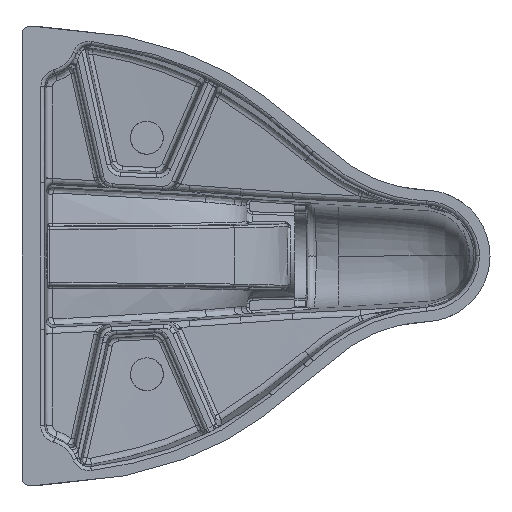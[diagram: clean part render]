
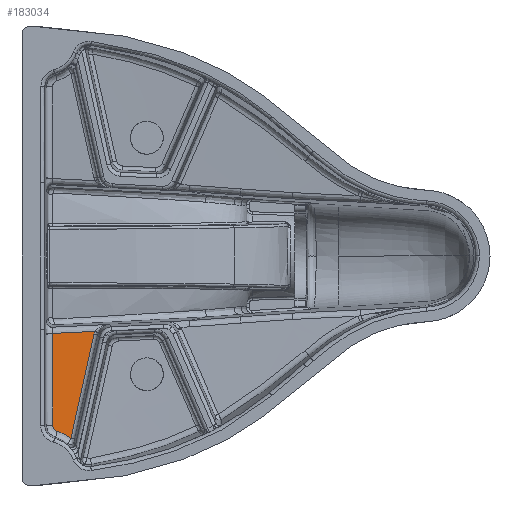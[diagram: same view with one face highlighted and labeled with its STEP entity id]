
A CAD part, left-side view. The second image highlights one B-rep face of the part: STEP entity #183034.
In plain terms, the highlighted free-form (B-spline) face has degree [3, 3] with [4, 4] control points.
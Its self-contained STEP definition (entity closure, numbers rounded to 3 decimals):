
#251 = B_SPLINE_CURVE_WITH_KNOTS ( 'NONE', 3,
 ( #16795, #131809, #65729, #110964 ),
 .UNSPECIFIED., .F., .F.,
 ( 4, 4 ),
 ( 0., 1. ),
 .UNSPECIFIED. ) ;
#8101 = VERTEX_POINT ( 'NONE', #109802 ) ;
#9115 = CARTESIAN_POINT ( 'NONE',  ( -241.536, 136.619, -139.788 ) ) ;
#9513 = CARTESIAN_POINT ( 'NONE',  ( -240.978, 147.461, -128.692 ) ) ;
#9956 = CARTESIAN_POINT ( 'NONE',  ( -239.193, 121.817, -85.988 ) ) ;
#11139 = CARTESIAN_POINT ( 'NONE',  ( -241.514, 133.475, -138.755 ) ) ;
#11355 = CARTESIAN_POINT ( 'NONE',  ( -241.003, 147.461, -129.234 ) ) ;
#13202 = CARTESIAN_POINT ( 'NONE',  ( -241.215, 143.845, -133.496 ) ) ;
#16795 = CARTESIAN_POINT ( 'NONE',  ( -237.807, 147.461, -58.917 ) ) ;
#20552 = CARTESIAN_POINT ( 'NONE',  ( -239.383, 147.461, -93.595 ) ) ;
#21634 = EDGE_CURVE ( 'NONE', #104469, #91697, #135514, .T. ) ;
#23520 = VECTOR ( 'NONE', #107267, 1000. ) ;
#24574 = CARTESIAN_POINT ( 'NONE',  ( -241.145, 146.021, -132.206 ) ) ;
#25104 = CARTESIAN_POINT ( 'NONE',  ( -240.285, 125.815, -110.756 ) ) ;
#25484 = CARTESIAN_POINT ( 'NONE',  ( -241.159, 145.731, -132.484 ) ) ;
#25635 = VERTEX_POINT ( 'NONE', #27637 ) ;
#26401 = CARTESIAN_POINT ( 'NONE',  ( -241.192, 144.842, -133.091 ) ) ;
#27637 = CARTESIAN_POINT ( 'NONE',  ( -238.041, 115.988, -59.605 ) ) ;
#28324 = CARTESIAN_POINT ( 'NONE',  ( -240.978, 147.461, -128.692 ) ) ;
#35483 = CARTESIAN_POINT ( 'NONE',  ( -241.536, 115.087, -136.319 ) ) ;
#35635 = LINE ( 'NONE', #20552, #23520 ) ;
#36442 = CARTESIAN_POINT ( 'NONE',  ( -240.286, 147.461, -113.449 ) ) ;
#37775 = CARTESIAN_POINT ( 'NONE',  ( -241.075, 147.013, -130.779 ) ) ;
#38705 = CARTESIAN_POINT ( 'NONE',  ( -241.168, 145.524, -132.653 ) ) ;
#40922 = CARTESIAN_POINT ( 'NONE',  ( -237.976, 115.583, -58.096 ) ) ;
#42782 = CARTESIAN_POINT ( 'NONE',  ( -238.041, 115.988, -59.605 ) ) ;
#42836 = VERTEX_POINT ( 'NONE', #54268 ) ;
#46957 = ORIENTED_EDGE ( 'NONE', *, *, #21634, .F. ) ;
#52464 = CARTESIAN_POINT ( 'NONE',  ( -239.035, 115.087, -81.297 ) ) ;
#52632 = CARTESIAN_POINT ( 'NONE',  ( -241.355, 137.961, -135.861 ) ) ;
#54268 = CARTESIAN_POINT ( 'NONE',  ( -241.514, 133.475, -138.755 ) ) ;
#56551 = CARTESIAN_POINT ( 'NONE',  ( -241.21, 144.106, -133.421 ) ) ;
#65729 = CARTESIAN_POINT ( 'NONE',  ( -237.881, 126.006, -57.889 ) ) ;
#65759 = CARTESIAN_POINT ( 'NONE',  ( -237.807, 147.461, -58.917 ) ) ;
#66756 = CARTESIAN_POINT ( 'NONE',  ( -241.25, 141.96, -134.038 ) ) ;
#67422 = CARTESIAN_POINT ( 'NONE',  ( -241.514, 133.475, -138.755 ) ) ;
#68200 = EDGE_LOOP ( 'NONE', ( #108142, #128570, #164722, #46957, #173393, #182236 ) ) ;
#69547 = CARTESIAN_POINT ( 'NONE',  ( -241.395, 136.679, -136.577 ) ) ;
#80791 = B_SPLINE_CURVE_WITH_KNOTS ( 'NONE', 3,
 ( #137217, #9956, #166457, #67422 ),
 .UNSPECIFIED., .F., .F.,
 ( 4, 4 ),
 ( 0., 1. ),
 .UNSPECIFIED. ) ;
#82062 = CARTESIAN_POINT ( 'NONE',  ( -241.027, 147.376, -129.761 ) ) ;
#82701 = CARTESIAN_POINT ( 'NONE',  ( -241.215, 143.845, -133.496 ) ) ;
#83902 = CARTESIAN_POINT ( 'NONE',  ( -241.184, 145.076, -132.956 ) ) ;
#91697 = VERTEX_POINT ( 'NONE', #28324 ) ;
#93929 = CARTESIAN_POINT ( 'NONE',  ( -241.536, 125.815, -138.267 ) ) ;
#95260 = CARTESIAN_POINT ( 'NONE',  ( -241.064, 147.119, -130.531 ) ) ;
#95804 = FACE_OUTER_BOUND ( 'NONE', #68200, .T. ) ;
#95977 = CARTESIAN_POINT ( 'NONE',  ( -241.482, 134.239, -138.163 ) ) ;
#96738 = CARTESIAN_POINT ( 'NONE',  ( -239.035, 136.619, -84.766 ) ) ;
#98036 = CARTESIAN_POINT ( 'NONE',  ( -241.13, 146.292, -131.908 ) ) ;
#103981 = VERTEX_POINT ( 'NONE', #65759 ) ;
#104469 = VERTEX_POINT ( 'NONE', #82701 ) ;
#107267 = DIRECTION ( 'NONE',  ( -0.045, 0., -0.999 ) ) ;
#108142 = ORIENTED_EDGE ( 'NONE', *, *, #122277, .F. ) ;
#109802 = CARTESIAN_POINT ( 'NONE',  ( -237.946, 115.279, -57.374 ) ) ;
#110887 = CARTESIAN_POINT ( 'NONE',  ( -237.784, 115.087, -53.786 ) ) ;
#110964 = CARTESIAN_POINT ( 'NONE',  ( -237.946, 115.279, -57.374 ) ) ;
#111270 = CARTESIAN_POINT ( 'NONE',  ( -241.195, 144.722, -133.153 ) ) ;
#112536 = B_SPLINE_CURVE_WITH_KNOTS ( 'NONE', 3,
 ( #11139, #95977, #140282, #69547, #125196, #52632, #182740, #66756, #169530 ),
 .UNSPECIFIED., .F., .F.,
 ( 4, 1, 2, 2, 4 ),
 ( 0., 0.25, 0.375, 0.5, 1. ),
 .UNSPECIFIED. ) ;
#113500 = CARTESIAN_POINT ( 'NONE',  ( -237.946, 115.279, -57.374 ) ) ;
#122277 = EDGE_CURVE ( 'NONE', #8101, #25635, #141962, .T. ) ;
#124494 = CARTESIAN_POINT ( 'NONE',  ( -241.14, 146.114, -132.11 ) ) ;
#125196 = CARTESIAN_POINT ( 'NONE',  ( -241.368, 137.528, -136.094 ) ) ;
#125973 = CARTESIAN_POINT ( 'NONE',  ( -241.536, 147.461, -140.96 ) ) ;
#127203 = B_SPLINE_SURFACE_WITH_KNOTS ( 'NONE', 3, 3, ( 
 ( #168429, #164661, #181645, #110887 ),
 ( #182575, #96738, #153344, #52464 ),
 ( #36442, #154265, #25104, #151460 ),
 ( #125973, #9115, #93929, #35483 ) ),
 .UNSPECIFIED., .F., .F., .F.,
 ( 4, 4 ),
 ( 4, 4 ),
 ( 0., 0.75 ),
 ( 0.024, 0.125 ),
 .UNSPECIFIED. ) ;
#128570 = ORIENTED_EDGE ( 'NONE', *, *, #158711, .F. ) ;
#131074 = EDGE_CURVE ( 'NONE', #42836, #104469, #112536, .T. ) ;
#131809 = CARTESIAN_POINT ( 'NONE',  ( -237.836, 136.733, -58.403 ) ) ;
#135037 = EDGE_CURVE ( 'NONE', #25635, #42836, #80791, .T. ) ;
#135514 = B_SPLINE_CURVE_WITH_KNOTS ( 'NONE', 3,
 ( #13202, #56551, #153734, #111270, #26401, #83902, #167885, #38705, #25484, #24574, #124494, #98036, #141423, #184819, #138667, #37775, #95260, #82062, #11355, #9513 ),
 .UNSPECIFIED., .F., .F.,
 ( 4, 2, 2, 2, 2, 2, 2, 2, 2, 4 ),
 ( 0., 0.125, 0.187, 0.25, 0.375, 0.438, 0.5, 0.625, 0.75, 1. ),
 .UNSPECIFIED. ) ;
#137217 = CARTESIAN_POINT ( 'NONE',  ( -238.041, 115.988, -59.605 ) ) ;
#138667 = CARTESIAN_POINT ( 'NONE',  ( -241.098, 146.764, -131.253 ) ) ;
#140282 = CARTESIAN_POINT ( 'NONE',  ( -241.437, 135.427, -137.329 ) ) ;
#141423 = CARTESIAN_POINT ( 'NONE',  ( -241.125, 146.378, -131.803 ) ) ;
#141962 = B_SPLINE_CURVE_WITH_KNOTS ( 'NONE', 3,
 ( #113500, #40922, #171974, #42782 ),
 .UNSPECIFIED., .F., .F.,
 ( 4, 4 ),
 ( 0., 1. ),
 .UNSPECIFIED. ) ;
#150097 = EDGE_CURVE ( 'NONE', #103981, #91697, #35635, .T. ) ;
#151460 = CARTESIAN_POINT ( 'NONE',  ( -240.285, 115.087, -108.808 ) ) ;
#153344 = CARTESIAN_POINT ( 'NONE',  ( -239.035, 125.815, -83.245 ) ) ;
#153734 = CARTESIAN_POINT ( 'NONE',  ( -241.205, 144.358, -133.325 ) ) ;
#154265 = CARTESIAN_POINT ( 'NONE',  ( -240.285, 136.619, -112.277 ) ) ;
#158711 = EDGE_CURVE ( 'NONE', #103981, #8101, #251, .T. ) ;
#164661 = CARTESIAN_POINT ( 'NONE',  ( -237.785, 136.619, -57.255 ) ) ;
#164722 = ORIENTED_EDGE ( 'NONE', *, *, #150097, .T. ) ;
#166457 = CARTESIAN_POINT ( 'NONE',  ( -240.351, 127.646, -112.372 ) ) ;
#167885 = CARTESIAN_POINT ( 'NONE',  ( -241.18, 145.191, -132.883 ) ) ;
#168429 = CARTESIAN_POINT ( 'NONE',  ( -237.785, 147.461, -58.427 ) ) ;
#169530 = CARTESIAN_POINT ( 'NONE',  ( -241.215, 143.845, -133.496 ) ) ;
#171974 = CARTESIAN_POINT ( 'NONE',  ( -238.008, 115.819, -58.84 ) ) ;
#173393 = ORIENTED_EDGE ( 'NONE', *, *, #131074, .F. ) ;
#181645 = CARTESIAN_POINT ( 'NONE',  ( -237.784, 125.815, -55.735 ) ) ;
#182236 = ORIENTED_EDGE ( 'NONE', *, *, #135037, .F. ) ;
#182575 = CARTESIAN_POINT ( 'NONE',  ( -239.035, 147.461, -85.938 ) ) ;
#182740 = CARTESIAN_POINT ( 'NONE',  ( -241.292, 140.143, -134.753 ) ) ;
#183034 = ADVANCED_FACE ( 'NONE', ( #95804 ), #127203, .T. ) ;
#184819 = CARTESIAN_POINT ( 'NONE',  ( -241.109, 146.621, -131.479 ) ) ;
